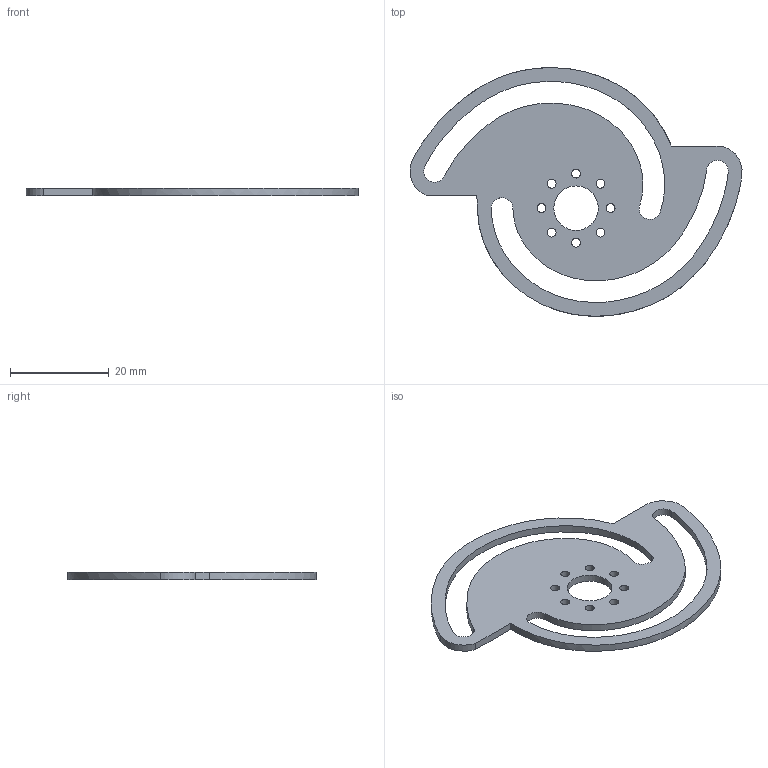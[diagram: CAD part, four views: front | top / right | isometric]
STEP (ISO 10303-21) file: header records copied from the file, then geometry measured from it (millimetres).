
FILE_DESCRIPTION(/* description */ (''),/* implementation_level */ '2;1');
FILE_NAME(/* name */ 'C:/Users/priba/Downloads/GripperConstraint2.step',/* time_stamp */ '2020-06-09T22:16:34+02:00',/* author */ (''),/* organization */ (''),/* preprocessor_version */ 'ST-DEVELOPER v18.1',/* originating_system */ 'Autodesk Translation Framework v9.3.0.1241',/* authorisation */ '');
FILE_SCHEMA (('AUTOMOTIVE_DESIGN { 1 0 10303 214 3 1 1 }'));
Length unit declared in the file: millimetre
Products named in the file (2): GripperConstraint2; GripperGroove
Assembly tree (1 placements, depth 2):
  GripperConstraint2
    GripperGroove
Bounding box: 67.29 x 50.4 x 1.5 mm (x, y, z)
Volume: 2308.7 mm3; surface area: 3905 mm2
Topology: 1 solids, 1 shells, 26 faces, 72 edges, 48 vertices
Faces by surface type: cylinder 15, bspline 6, plane 5
Full cylindrical faces by diameter (mm): 1.8 x8, 9 x1
Entity records: 1423 total; most frequent: CARTESIAN_POINT 671, ORIENTED_EDGE 144, DIRECTION 136, EDGE_CURVE 72, AXIS2_PLACEMENT_3D 53, EDGE_LOOP 48, VERTEX_POINT 48, CIRCLE 30
